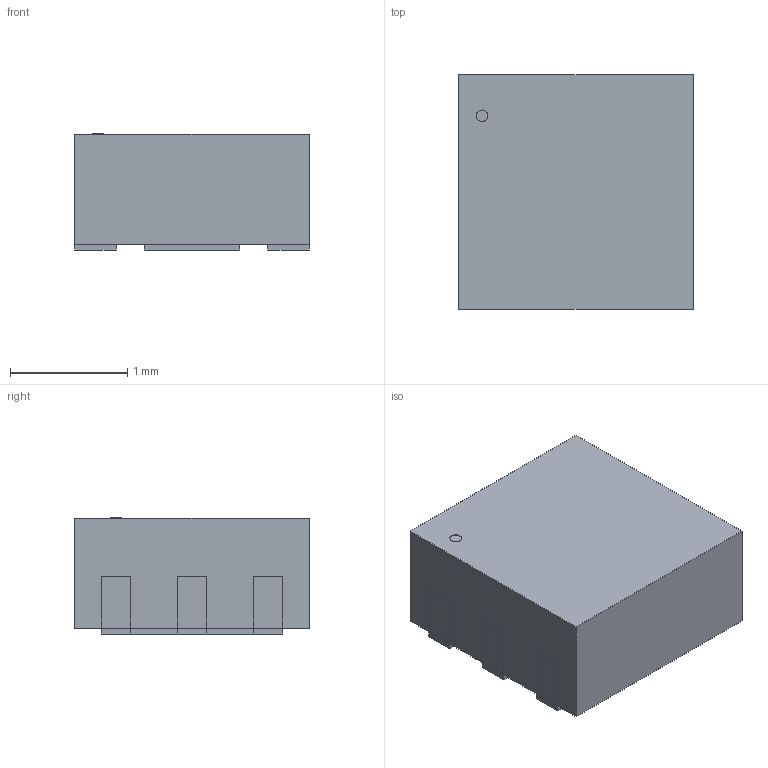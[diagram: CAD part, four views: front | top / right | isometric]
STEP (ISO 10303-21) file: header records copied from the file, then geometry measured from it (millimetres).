
FILE_DESCRIPTION(('STEP AP214'),'1');
FILE_NAME('DFN_6_ADI','2024-04-18T04:48:33',(''),(''),'','','');
FILE_SCHEMA(('AUTOMOTIVE_DESIGN'));
Length unit declared in the file: millimetre
Products named in the file (1): product
Bounding box: 2.01 x 2.01 x 0.99 mm (x, y, z)
Volume: 3.9 mm3; surface area: 20.9 mm2
Topology: 9 solids, 9 shells, 63 faces, 123 edges, 78 vertices
Faces by surface type: plane 62, cylinder 1
Full cylindrical faces by diameter (mm): 0.1 x1
Entity records: 1753 total; most frequent: ORIENTED_EDGE 268, DIRECTION 266, CARTESIAN_POINT 157, EDGE_CURVE 134, LINE 132, VECTOR 132, VERTEX_POINT 90, AXIS2_PLACEMENT_3D 67
